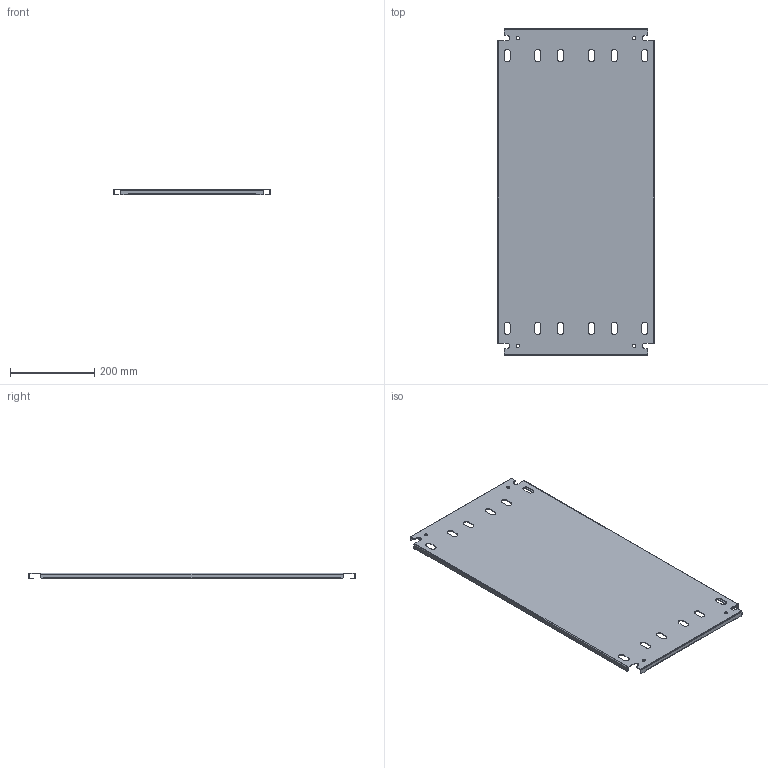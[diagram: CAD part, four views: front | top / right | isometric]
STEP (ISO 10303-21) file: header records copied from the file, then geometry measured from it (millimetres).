
FILE_DESCRIPTION(/* description */ ('1412BTCU 14.625" x 28" Right Inner Panel'),/* implementation_level */ '2;1');
FILE_NAME(/* name */ 'C:\Vault_Workspace\Inventor_Dwg\BoxCad\Result\1412BTCU07203\e-mail\3D\1412BTCU07203IP2.stp',/* time_stamp */ '2022-09-06T12:08:15-04:00',/* author */ ('BoxCad'),/* organization */ (''),/* preprocessor_version */ 'ST-DEVELOPER v18.1',/* originating_system */ 'Autodesk Inventor 2020',/* authorisation */ '');
FILE_SCHEMA (('AUTOMOTIVE_DESIGN { 1 0 10303 214 3 1 1 }'));
Length unit declared in the file: inch
Products named in the file (2): 1412BTCU07203IP2; 1412BTCU07203IP2-P
Assembly tree (1 placements, depth 2):
  1412BTCU07203IP2
    1412BTCU07203IP2-P
Bounding box: 371.48 x 774.7 x 13 mm (x, y, z)
Volume: 551557 mm3; surface area: 644782.6 mm2
Topology: 1 solids, 1 shells, 158 faces, 468 edges, 312 vertices
Faces by surface type: plane 90, cylinder 68
Full cylindrical faces by diameter (mm): 7.366 x4
Entity records: 5441 total; most frequent: CARTESIAN_POINT 941, ORIENTED_EDGE 936, DIRECTION 926, EDGE_CURVE 468, LINE 332, VECTOR 332, VERTEX_POINT 312, AXIS2_PLACEMENT_3D 297
